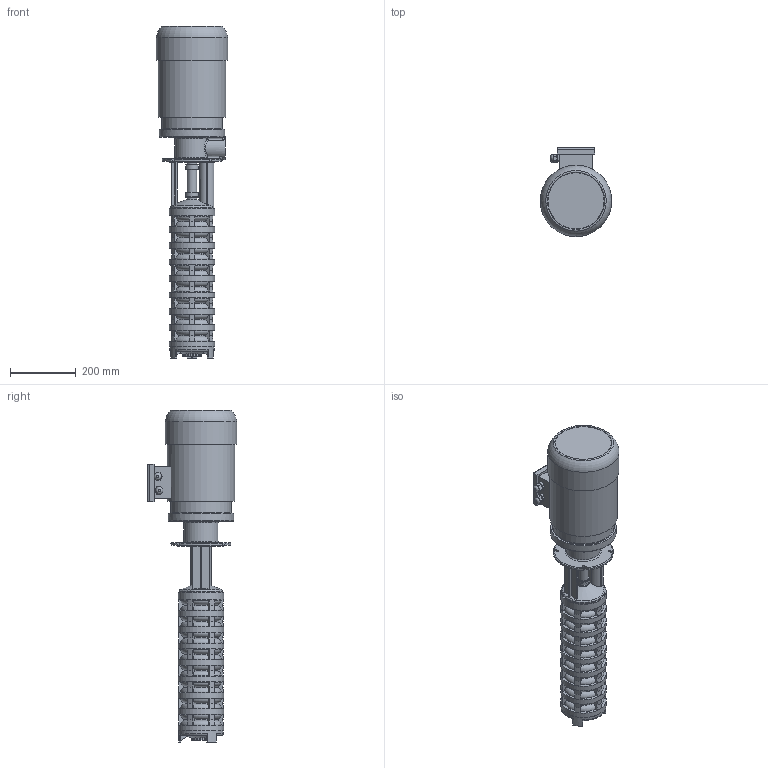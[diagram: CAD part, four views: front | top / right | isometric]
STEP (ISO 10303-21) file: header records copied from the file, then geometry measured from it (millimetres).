
FILE_DESCRIPTION(/* description */ ('Unknown'),/* implementation_level */ '2;1');
FILE_NAME(/* name */ 'gp9-600',/* time_stamp */ '2025-06-17T14:06:29+03:00',/* author */ ('Unknown'),/* organization */ ('Unknown'),/* preprocessor_version */ 'ST-DEVELOPER v16.7',/* originating_system */ 'DEX',/* authorisation */ $);
FILE_SCHEMA (('AUTOMOTIVE_DESIGN {1 0 10303 214 3 1 1}'));
Length unit declared in the file: millimetre
Products named in the file (1): gp9-600
Bounding box: 218 x 272.5 x 1012.99 mm (x, y, z)
Volume: 19422767.1 mm3; surface area: 757505.2 mm2
Topology: 1 solids, 1 shells, 690 faces, 1884 edges, 1225 vertices
Faces by surface type: plane 237, cone 129, cylinder 124, torus 116, bspline 84
Full cylindrical faces by diameter (mm): 17 x2, 21.5 x2, 29 x3, 33 x2, 35 x2, 39 x2, 40.5 x2, 45 x1, 47 x1, 60 x1, 137 x1, 139 x9, 140 x1, 185.379 x1, 200 x1, 206 x1, 218 x1
Entity records: 24300 total; most frequent: CARTESIAN_POINT 7291, ORIENTED_EDGE 3558, DIRECTION 3530, EDGE_CURVE 1779, AXIS2_PLACEMENT_3D 1351, VERTEX_POINT 1194, LINE 828, VECTOR 828
